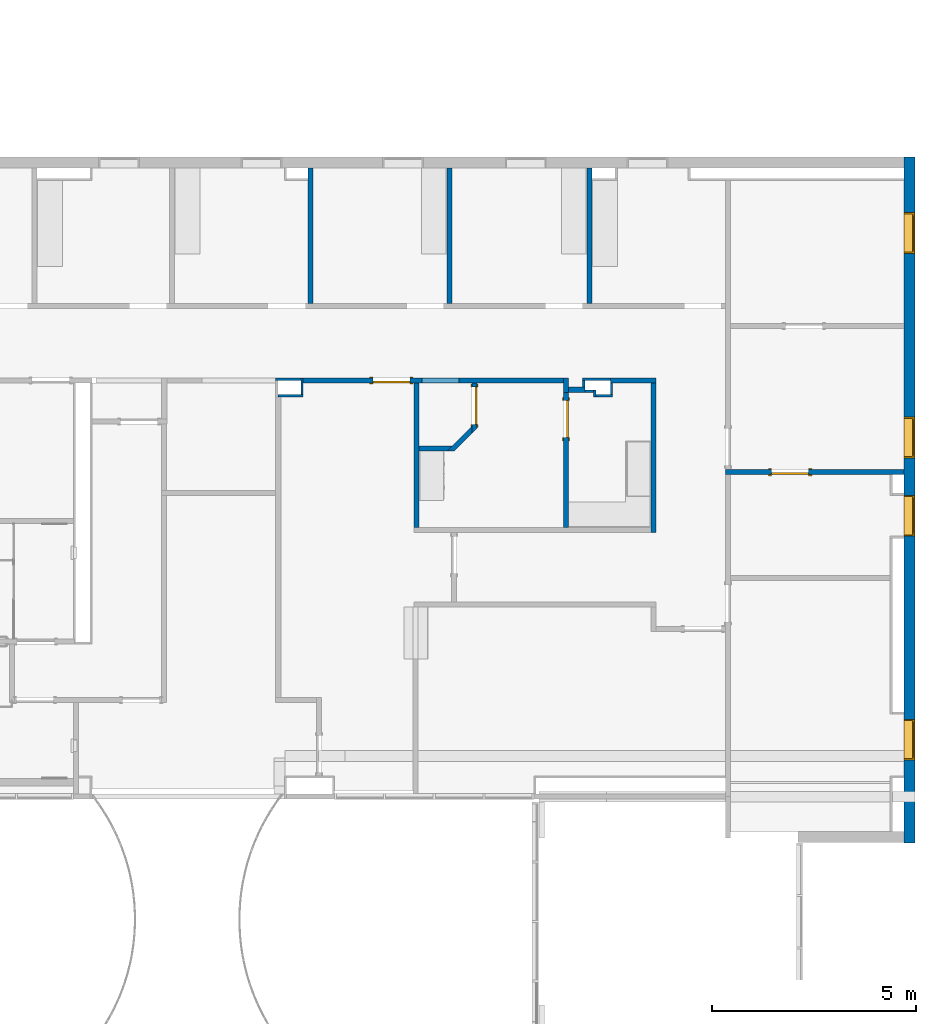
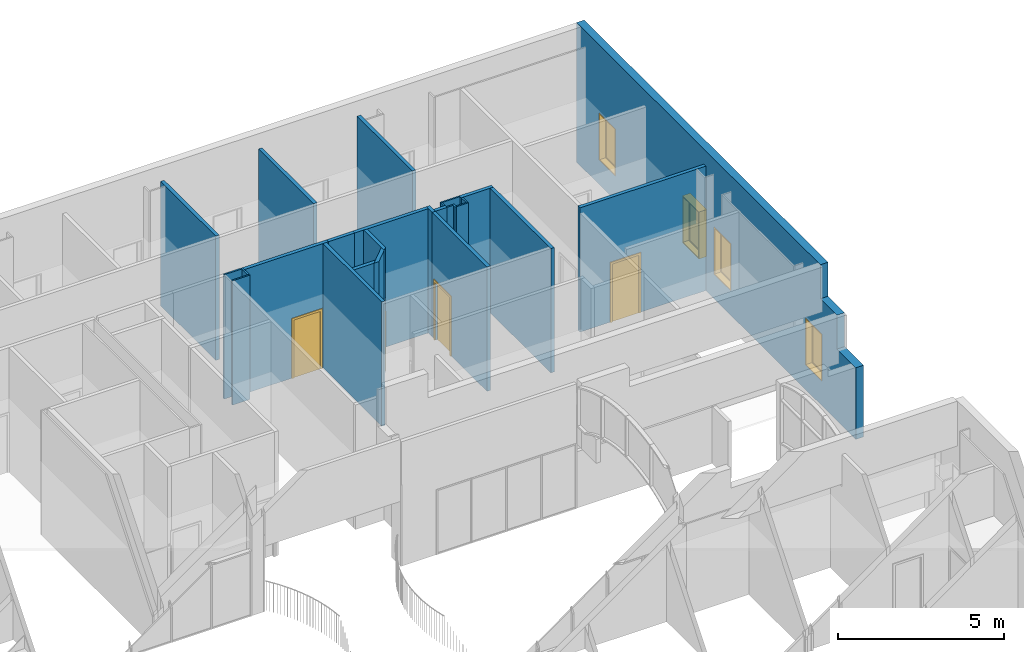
# One storey, part 23 of 45: 26 walls, 4 doors, 4 windows, 9 openings.
"""IFC2X3 building model written with IfcOpenShell, lengths in metres."""

from ifc_helpers import new_model, entity, si_unit, converted_unit, frame, frame_2d, origin, origin_2d_with_axis, place, context, project, spatial, polyline, rectangle, outline, extrude, clip, halfspace, source, transform, mapped, material, layer, layer_set, layer_usage, type_object, type_shapes, element, fill, save


model = new_model("IFC2X3")

# Units and contexts
model_context = context("Model", 3, precision=1e-09, world=origin())
plan_context = context("Plan", 3, precision=1e-09, world=origin())
ifc_project = project(units=[si_unit("LENGTHUNIT", "METRE"), si_unit("AREAUNIT", "SQUARE_METRE"), si_unit("VOLUMEUNIT", "CUBIC_METRE"), converted_unit("PLANEANGLEUNIT", "DEGREE", entity("IfcRatioMeasure", 0.01745329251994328), si_unit("PLANEANGLEUNIT", "RADIAN"), dimensions=[0, 0, 0, 0, 0, 0, 0]), si_unit("TIMEUNIT", "SECOND")], contexts=[model_context, plan_context])

# Site, building, storey
site_placement = place(None, origin())
site = spatial("IfcSite", under=ifc_project, at=site_placement, Name="Default", CompositionType="ELEMENT")
building_placement = place(site_placement, origin())
building = spatial("IfcBuilding", under=site, at=building_placement, CompositionType="ELEMENT")
storey_placement = place(building_placement, frame((0.0, 0.0, 4.570000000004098)))
storey = spatial("IfcBuildingStorey", under=building, at=storey_placement, Name="Second Floor", CompositionType="ELEMENT", Elevation=4.570000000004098)

# Wall, openings, windows
ifc_material_1 = material(Name="Insulation - Insulated Panel")
ifc_layer_1 = layer(ifc_material_1, 0.042)
ifc_material_2 = material(Name="Metal - Firring")
ifc_layer_2 = layer(ifc_material_2, 0.038)
ifc_material_3 = material(Name="Wood - Sheathing - plywood")
ifc_layer_3 = layer(ifc_material_3, 0.019)
ifc_material_4 = material(Name="Metal - Stud Layer")
ifc_layer_4 = layer(ifc_material_4, 0.152)
ifc_material_5 = material(Name="Plasterboard")
ifc_layer_5 = layer(ifc_material_5, 0.016)
ifc_layer_set_1 = layer_set([ifc_layer_1, ifc_layer_2, ifc_layer_3, ifc_layer_4, ifc_layer_5], Name="Basic Wall:Exterior - Insul Panel on Mtl. Stud")
ifc_layer_usage_1 = layer_usage(ifc_layer_set_1, "AXIS2", "NEGATIVE", 0.1335)
wall_1_placement = place(storey_placement, frame((0.2464999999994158, 50.46999999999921, 0.0), z_axis=(0.0, 0.0, 1.0), x_axis=(0.0, -1.0, 0.0)))
wall_1 = element("IfcWallStandardCase", 1, at=wall_1_placement, inside=storey, material=ifc_layer_usage_1, Name="Basic Wall:Exterior - Insul Panel on Mtl. Stud", ObjectType="Basic Wall:Exterior - Insul Panel on Mtl. Stud", context=model_context, shape_type="Clipping", body=[
    clip(extrude(rectangle(XDim=16.83999999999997, YDim=0.267, at=frame_2d((8.419999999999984, 0.0), x_axis=(-1.0, 0.0))), origin(), (0.0, 0.0, 1.0), 5.136999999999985), halfspace(frame((16.83999999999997, 0.0, 2.640000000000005), z_axis=(0.7602158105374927, 0.0, 0.6496706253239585), x_axis=(0.0, 1.0, 0.0)), False)),
])
opening_1_placement = place(wall_1_placement, frame((15.5330384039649, 0.1335, 3.638799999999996)))
element("IfcOpeningElement", 2, at=opening_1_placement, cuts=wall_1, Name="Basic Wall:Exterior - Insul Panel on Mtl. Stud:2", ObjectType="Opening", context=model_context, shape_type="SweptSolid", body=[
    extrude(outline(polyline([(-1.608398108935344, -0.3446818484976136), (1.676195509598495, -0.344681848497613), (0.7270660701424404, 0.4664319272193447), (0.077132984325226, -0.2940910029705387), (-0.8719964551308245, 0.5170227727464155), (-1.608398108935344, -0.3446818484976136)])), frame((0.0, 0.0, 0.0), z_axis=(0.0, -1.0, 0.0), x_axis=(-0.6496706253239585, 0.0, 0.7602158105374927)), (0.0, 0.0, 1.0), 0.267),
])
opening_2_placement = place(wall_1_placement, frame((13.80556128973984, -0.1335000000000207, 0.905)))
opening_2 = element("IfcOpeningElement", 3, at=opening_2_placement, cuts=wall_1, Name="M_Fixed:1735 x 1000mm:1735 x 1000mm:1", ObjectType="Opening", context=model_context, shape_type="SweptSolid", body=[
    extrude(rectangle(XDim=1.734999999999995, YDim=0.9999999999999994, at=frame_2d((0.8674999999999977, 0.5000000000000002), x_axis=(1.0, 0.0))), frame((0.0, 0.0, 0.0), z_axis=(0.0, 1.0, 0.0), x_axis=(0.0, 0.0, 1.0)), (0.0, 0.0, 1.0), 0.267),
])
opening_3_placement = place(wall_1_placement, frame((8.305561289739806, -0.1335000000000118, 0.905)))
opening_3 = element("IfcOpeningElement", 4, at=opening_3_placement, cuts=wall_1, Name="M_Fixed:1735 x 1000mm:1735 x 1000mm:1", ObjectType="Opening", context=model_context, shape_type="SweptSolid", body=[
    extrude(rectangle(XDim=1.734999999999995, YDim=0.9999999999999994, at=frame_2d((0.8674999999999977, 0.5000000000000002), x_axis=(1.0, 0.0))), frame((0.0, 0.0, 0.0), z_axis=(0.0, 1.0, 0.0), x_axis=(0.0, 0.0, 1.0)), (0.0, 0.0, 1.0), 0.267),
])
opening_4_placement = place(wall_1_placement, frame((1.36443913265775, -0.1335000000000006, 0.905)))
opening_4 = element("IfcOpeningElement", 5, at=opening_4_placement, cuts=wall_1, Name="M_Fixed:1735 x 1000mm:1735 x 1000mm:1", ObjectType="Opening", context=model_context, shape_type="SweptSolid", body=[
    extrude(rectangle(XDim=1.734999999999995, YDim=0.9999999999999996, at=frame_2d((0.8674999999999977, 0.4999999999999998), x_axis=(1.0, 0.0))), frame((0.0, 0.0, 0.0), z_axis=(0.0, 1.0, 0.0), x_axis=(0.0, 0.0, 1.0)), (0.0, 0.0, 1.0), 0.267),
])
opening_5_placement = place(wall_1_placement, frame((6.384439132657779, -0.1335000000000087, 0.905)))
opening_5 = element("IfcOpeningElement", 6, at=opening_5_placement, cuts=wall_1, Name="M_Fixed:1735 x 1000mm:1735 x 1000mm:1", ObjectType="Opening", context=model_context, shape_type="SweptSolid", body=[
    extrude(rectangle(XDim=1.734999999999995, YDim=0.9999999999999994, at=frame_2d((0.8674999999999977, 0.5000000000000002), x_axis=(1.0, 0.0))), frame((0.0, 0.0, 0.0), z_axis=(0.0, 1.0, 0.0), x_axis=(0.0, 0.0, 1.0)), (0.0, 0.0, 1.0), 0.267),
])
window_style = type_object("IfcWindowStyle", Name="1735 x 1000mm", ConstructionType="NOTDEFINED", OperationType="NOTDEFINED", ParameterTakesPrecedence=False, Sizeable=False)
shared_shape_1 = source(origin(), model_context, "Body", "SweptSolid", [
    extrude(rectangle(XDim=0.012, YDim=0.873999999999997, at=origin_2d_with_axis()), frame((0.5000000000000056, 0.2259999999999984, 0.06299999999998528), z_axis=(0.0, 0.0, 1.0), x_axis=(0.0, -1.0, 0.0)), (0.0, 0.0, 1.0), 1.609000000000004),
    extrude(outline(polyline([(-0.4809999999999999, -0.8485000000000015), (0.4809999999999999, -0.8485000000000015), (0.4809999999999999, 0.8485000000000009), (-0.4809999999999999, 0.8485000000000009), (-0.4809999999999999, -0.8485000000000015)]), holes=[polyline([(-0.4369999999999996, -0.8045000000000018), (-0.4369999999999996, 0.8045000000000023), (0.4369999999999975, 0.8045000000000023), (0.4369999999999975, -0.8045000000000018), (-0.4369999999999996, -0.8045000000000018)])]), frame((0.5000000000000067, 0.203999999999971, 0.8674999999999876), z_axis=(0.0, 1.0, 0.0), x_axis=(1.0, 0.0, 0.0)), (0.0, 0.0, 1.0), 0.04400000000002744),
    extrude(outline(polyline([(-0.4999999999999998, -0.8674999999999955), (0.4999999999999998, -0.8674999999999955), (0.4999999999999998, 0.8674999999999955), (-0.4999999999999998, 0.8674999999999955), (-0.4999999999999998, -0.8674999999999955)]), holes=[polyline([(-0.4810000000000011, -0.8484999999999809), (-0.4810000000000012, 0.8485000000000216), (0.4809999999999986, 0.8485000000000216), (0.4809999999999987, -0.8484999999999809), (-0.4810000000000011, -0.8484999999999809)])]), frame((0.500000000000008, 0.203999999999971, 0.8675000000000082), z_axis=(0.0, 1.0, 0.0), x_axis=(1.0, 0.0, 0.0)), (0.0, 0.0, 1.0), 0.06300000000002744),
    extrude(outline(polyline([(-0.5000000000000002, -0.867499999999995), (0.5000000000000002, -0.867499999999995), (0.5000000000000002, 0.867499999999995), (-0.5000000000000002, 0.867499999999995), (-0.5000000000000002, -0.867499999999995)]), holes=[polyline([(-0.4679999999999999, -0.8354999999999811), (-0.4679999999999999, 0.8355000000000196), (0.4680000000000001, 0.8355000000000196), (0.4680000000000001, -0.8354999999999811), (-0.4679999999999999, -0.8354999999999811)])]), frame((0.5000000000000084, 0.0, 0.8675000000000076), z_axis=(0.0, 1.0, 0.0), x_axis=(1.0, 0.0, 0.0)), (0.0, 0.0, 1.0), 0.2039999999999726),
])
type_shapes(window_style, [shared_shape_1])
window_1_placement = place(opening_3_placement, origin())
window_1 = element("IfcWindow", 7, at=window_1_placement, inside=storey, type_object=window_style, Name="M_Fixed:1735 x 1000mm:1735 x 1000mm", ObjectType="1735 x 1000mm", OverallHeight=1.734999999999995, OverallWidth=0.9999999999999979, context=model_context, shape_type="MappedRepresentation", body=[
    mapped(shared_shape_1, transform((0.0, 0.0, 0.0), scale=1.0)),
])
fill(opening_3, window_1)
window_2_placement = place(opening_5_placement, origin())
window_2 = element("IfcWindow", 8, at=window_2_placement, inside=storey, type_object=window_style, Name="M_Fixed:1735 x 1000mm:1735 x 1000mm", ObjectType="1735 x 1000mm", OverallHeight=1.734999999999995, OverallWidth=0.9999999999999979, context=model_context, shape_type="MappedRepresentation", body=[
    mapped(shared_shape_1, transform((0.0, 0.0, 0.0), scale=1.0)),
])
fill(opening_5, window_2)
window_3_placement = place(opening_4_placement, origin())
window_3 = element("IfcWindow", 9, at=window_3_placement, inside=storey, type_object=window_style, Name="M_Fixed:1735 x 1000mm:1735 x 1000mm", ObjectType="1735 x 1000mm", OverallHeight=1.734999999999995, OverallWidth=0.9999999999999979, context=model_context, shape_type="MappedRepresentation", body=[
    mapped(shared_shape_1, transform((0.0, 0.0, 0.0), scale=1.0)),
])
fill(opening_4, window_3)
window_4_placement = place(opening_2_placement, origin())
window_4 = element("IfcWindow", 10, at=window_4_placement, inside=storey, type_object=window_style, Name="M_Fixed:1735 x 1000mm:1735 x 1000mm", ObjectType="1735 x 1000mm", OverallHeight=1.734999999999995, OverallWidth=0.9999999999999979, context=model_context, shape_type="MappedRepresentation", body=[
    mapped(shared_shape_1, transform((0.0, 0.0, 0.0), scale=1.0)),
])
fill(opening_2, window_4)

# Wall, opening, door
ifc_layer_6 = layer(ifc_material_5, 0.016)
ifc_layer_7 = layer(ifc_material_4, 0.092)
ifc_layer_8 = layer(ifc_material_5, 0.016)
ifc_layer_set_2 = layer_set([ifc_layer_6, ifc_layer_7, ifc_layer_8], Name="Basic Wall:Interior - Partition (92mm Stud)")
ifc_layer_usage_2 = layer_usage(ifc_layer_set_2, "AXIS2", "NEGATIVE", 0.062)
wall_2_placement = place(storey_placement, frame((-14.6499750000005, 44.9824387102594, 0.0)))
wall_2 = element("IfcWallStandardCase", 11, at=wall_2_placement, inside=storey, material=ifc_layer_usage_2, Name="Basic Wall:Interior - Partition (92mm Stud)", ObjectType="Basic Wall:Interior - Partition (92mm Stud)", context=model_context, shape_type="SweptSolid", body=[
    extrude(rectangle(XDim=2.919974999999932, YDim=0.1240000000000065, at=frame_2d((1.459987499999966, 0.0), x_axis=(-1.0, 0.0))), origin(), (0.0, 0.0, 1.0), 4.577999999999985),
])
opening_6_placement = place(wall_2_placement, frame((2.629974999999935, 0.06199999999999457, 0.0)))
opening_6 = element("IfcOpeningElement", 12, at=opening_6_placement, cuts=wall_2, Name="M_Single-Flush:0915 x 2134mm:0915 x 2134mm:1", ObjectType="Opening", context=model_context, shape_type="SweptSolid", body=[
    extrude(rectangle(XDim=0.9149999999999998, YDim=2.134, at=frame_2d((1.067, 0.4574999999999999), x_axis=(0.0, -1.0))), frame((0.0, 0.0, 0.0), z_axis=(0.0, -1.0, 0.0), x_axis=(0.0, 0.0, 1.0)), (0.0, 0.0, 1.0), 0.124),
])
door_style_1 = type_object("IfcDoorStyle", Name="0915 x 2134mm", ConstructionType="NOTDEFINED", OperationType="SINGLE_SWING_LEFT", ParameterTakesPrecedence=False, Sizeable=False)
shared_shape_2 = source(origin(), model_context, "Body", "SweptSolid", [
    extrude(outline(polyline([(-0.5335, -1.123999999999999), (0.5334999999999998, -1.123999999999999), (0.5334999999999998, 1.086), (0.4574999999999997, 1.086), (0.4574999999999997, -1.048000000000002), (-0.4574999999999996, -1.048000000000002), (-0.4574999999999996, 1.086), (-0.5335, 1.086), (-0.5335, -1.123999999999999)])), frame((0.4575000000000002, 0.1489999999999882, 1.086), z_axis=(0.0, -1.0, 0.0), x_axis=(-1.0, 0.0, 0.0)), (0.0, 0.0, 1.0), 0.02499999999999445),
    extrude(outline(polyline([(-1.123999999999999, -0.5334999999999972), (1.085999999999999, -0.5334999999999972), (1.085999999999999, -0.4575000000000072), (-1.048, -0.4575000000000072), (-1.048, 0.4575000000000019), (1.085999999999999, 0.4575000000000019), (1.085999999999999, 0.5335000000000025), (-1.123999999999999, 0.5335000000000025), (-1.123999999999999, -0.5334999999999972)])), frame((0.4574999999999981, 0.0, 1.085999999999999), z_axis=(0.0, -1.0, 0.0), x_axis=(0.0, 0.0, -1.0)), (0.0, 0.0, 1.0), 0.02500000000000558),
    extrude(rectangle(XDim=0.9149999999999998, YDim=0.051, at=origin_2d_with_axis()), frame((0.4575000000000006, 0.09849999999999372, 0.0)), (0.0, 0.0, 1.0), 2.133999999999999),
])
type_shapes(door_style_1, [shared_shape_2])
door_1_placement = place(opening_6_placement, frame((0.0, 0.0, 0.0), z_axis=(0.0, 0.0, 1.0), x_axis=(-1.0, 0.0, 0.0)))
door_1 = element("IfcDoor", 13, at=door_1_placement, inside=storey, type_object=door_style_1, Name="M_Single-Flush:0915 x 2134mm:0915 x 2134mm", ObjectType="0915 x 2134mm", OverallHeight=2.134, OverallWidth=0.9149999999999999, context=model_context, shape_type="MappedRepresentation", body=[
    mapped(shared_shape_2, transform((0.0, 0.0, 0.0), scale=1.0)),
])
fill(opening_6, door_1)

# Walls
wall_3_placement = place(storey_placement, frame((-11.85800000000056, 41.3784387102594, 0.0), z_axis=(0.0, 0.0, 1.0), x_axis=(0.0, 1.0, 0.0)))
element("IfcWallStandardCase", 14, at=wall_3_placement, inside=storey, material=ifc_layer_usage_2, Name="Basic Wall:Interior - Partition (92mm Stud)", ObjectType="Basic Wall:Interior - Partition (92mm Stud)", context=model_context, shape_type="SweptSolid", body=[
    extrude(rectangle(XDim=3.541999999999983, YDim=0.1240000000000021, at=frame_2d((1.770999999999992, 0.0), x_axis=(-1.0, 0.0))), origin(), (0.0, 0.0, 1.0), 4.577999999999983),
])
wall_4_placement = place(storey_placement, frame((-7.104000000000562, 44.9824387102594, 0.0)))
element("IfcWallStandardCase", 15, at=wall_4_placement, inside=storey, material=ifc_layer_usage_2, Name="Basic Wall:Interior - Partition (92mm Stud)", ObjectType="Basic Wall:Interior - Partition (92mm Stud)", context=model_context, shape_type="SweptSolid", body=[
    extrude(rectangle(XDim=1.124000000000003, YDim=0.1240000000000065, at=frame_2d((0.5620000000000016, 0.0), x_axis=(-1.0, 0.0))), origin(), (0.0, 0.0, 1.0), 4.577999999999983),
])
wall_5_placement = place(storey_placement, frame((-8.13000000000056, 44.75743885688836, 0.0)))
element("IfcWallStandardCase", 16, at=wall_5_placement, inside=storey, material=ifc_layer_usage_2, Name="Basic Wall:Interior - Partition (92mm Stud)", ObjectType="Basic Wall:Interior - Partition (92mm Stud)", context=model_context, shape_type="SweptSolid", body=[
    extrude(rectangle(XDim=0.4039997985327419, YDim=0.1240000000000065, at=frame_2d((0.2019998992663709, 0.0), x_axis=(-1.0, 0.0))), origin(), (0.0, 0.0, 1.0), 4.577999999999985),
])

# Wall, opening, door
wall_6_placement = place(storey_placement, frame((-4.270000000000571, 42.7324387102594, 0.0)))
wall_6 = element("IfcWallStandardCase", 17, at=wall_6_placement, inside=storey, material=ifc_layer_usage_2, Name="Basic Wall:Interior - Partition (92mm Stud)", ObjectType="Basic Wall:Interior - Partition (92mm Stud)", context=model_context, shape_type="SweptSolid", body=[
    extrude(rectangle(XDim=4.382999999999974, YDim=0.1240000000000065, at=frame_2d((2.191499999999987, 0.0), x_axis=(-1.0, 0.0))), origin(), (0.0, 0.0, 1.0), 4.577999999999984),
])
opening_7_placement = place(wall_6_placement, frame((2.03900000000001, 0.06199999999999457, 0.0)))
opening_7 = element("IfcOpeningElement", 18, at=opening_7_placement, cuts=wall_6, Name="M_Single-Flush:0915 x 2134mm:0915 x 2134mm:1", ObjectType="Opening", context=model_context, shape_type="SweptSolid", body=[
    extrude(rectangle(XDim=0.9149999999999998, YDim=2.134, at=frame_2d((1.067, 0.4575000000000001), x_axis=(0.0, 1.0))), frame((0.0, 0.0, 0.0), z_axis=(0.0, -1.0, 0.0), x_axis=(0.0, 0.0, 1.0)), (0.0, 0.0, 1.0), 0.124),
])
door_style_2 = type_object("IfcDoorStyle", Name="0915 x 2134mm", ConstructionType="NOTDEFINED", OperationType="SINGLE_SWING_RIGHT", ParameterTakesPrecedence=False, Sizeable=False)
shared_shape_3 = source(origin(), model_context, "Body", "SweptSolid", [
    extrude(outline(polyline([(-0.5335, -1.123999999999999), (0.5334999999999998, -1.123999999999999), (0.5334999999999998, 1.086), (0.4574999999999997, 1.086), (0.4574999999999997, -1.048000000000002), (-0.4574999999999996, -1.048000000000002), (-0.4574999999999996, 1.086), (-0.5335, 1.086), (-0.5335, -1.123999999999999)])), frame((0.4575000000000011, 0.1239999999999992, 1.086), z_axis=(0.0, 1.0, 0.0), x_axis=(1.0, 0.0, 0.0)), (0.0, 0.0, 1.0), 0.02499999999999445),
    extrude(outline(polyline([(-1.123999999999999, -0.5334999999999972), (1.085999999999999, -0.5334999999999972), (1.085999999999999, -0.4575000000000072), (-1.048, -0.4575000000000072), (-1.048, 0.4575000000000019), (1.085999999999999, 0.4575000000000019), (1.085999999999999, 0.5335000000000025), (-1.123999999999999, 0.5335000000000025), (-1.123999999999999, -0.5334999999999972)])), frame((0.4575000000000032, -0.02500000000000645, 1.085999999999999), z_axis=(0.0, 1.0, 0.0), x_axis=(0.0, 0.0, -1.0)), (0.0, 0.0, 1.0), 0.02500000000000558),
    extrude(rectangle(XDim=0.051, YDim=0.9149999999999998, at=origin_2d_with_axis()), frame((0.4575000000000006, 0.09849999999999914, 0.0), z_axis=(0.0, 0.0, 1.0), x_axis=(0.0, 1.0, 0.0)), (0.0, 0.0, 1.0), 2.133999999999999),
])
type_shapes(door_style_2, [shared_shape_3])
door_2_placement = place(opening_7_placement, frame((0.0, 0.0, 0.0), z_axis=(0.0, 0.0, 1.0), x_axis=(-1.0, 0.0, 0.0)))
door_2 = element("IfcDoor", 19, at=door_2_placement, inside=storey, type_object=door_style_2, Name="M_Single-Flush:0915 x 2134mm:0915 x 2134mm", ObjectType="0915 x 2134mm", OverallHeight=2.134, OverallWidth=0.9150000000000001, context=model_context, shape_type="MappedRepresentation", body=[
    mapped(shared_shape_3, transform((0.0, 0.0, 0.0), scale=1.0)),
])
fill(opening_7, door_2)

# Walls
ifc_layer_9 = layer(ifc_material_4, 0.038)
ifc_layer_10 = layer(ifc_material_5, 0.016)
ifc_layer_set_3 = layer_set([ifc_layer_9, ifc_layer_10], Name="Basic Wall:Interior - Furring (38 mm Stud)")
ifc_layer_usage_3 = layer_usage(ifc_layer_set_3, "AXIS2", "POSITIVE", -0.027)
wall_7_placement = place(storey_placement, frame((-15.32000000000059, 45.01743871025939, 0.0)))
element("IfcWallStandardCase", 20, at=wall_7_placement, inside=storey, material=ifc_layer_usage_3, Name="Basic Wall:Interior - Furring (38 mm Stud)", ObjectType="Basic Wall:Interior - Furring (38 mm Stud)", context=model_context, shape_type="SweptSolid", body=[
    extrude(rectangle(XDim=0.6160250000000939, YDim=0.05400000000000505, at=frame_2d((0.3080125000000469, 0.0), x_axis=(-1.0, 0.0))), origin(), (0.0, 0.0, 1.0), 4.577999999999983),
])
wall_8_placement = place(storey_placement, frame((-14.46200000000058, 50.20299999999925, 0.0), z_axis=(0.0, 0.0, 1.0), x_axis=(0.0, -1.0, 0.0)))
element("IfcWallStandardCase", 21, at=wall_8_placement, inside=storey, material=ifc_layer_usage_2, Name="Basic Wall:Interior - Partition (92mm Stud)", ObjectType="Basic Wall:Interior - Partition (92mm Stud)", context=model_context, shape_type="SweptSolid", body=[
    extrude(rectangle(XDim=3.324561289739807, YDim=0.1240000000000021, at=frame_2d((1.662280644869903, 0.0), x_axis=(-1.0, 0.0))), origin(), (0.0, 0.0, 1.0), 4.577999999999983),
])
wall_9_placement = place(storey_placement, frame((-10.81500000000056, 44.98243871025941, 0.0)))
element("IfcWallStandardCase", 22, at=wall_9_placement, inside=storey, material=ifc_layer_usage_2, Name="Basic Wall:Interior - Partition (92mm Stud)", ObjectType="Basic Wall:Interior - Partition (92mm Stud)", context=model_context, shape_type="SweptSolid", body=[
    extrude(rectangle(XDim=2.561, YDim=0.1240000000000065, at=frame_2d((1.2805, 0.0), x_axis=(-1.0, 0.0))), origin(), (0.0, 0.0, 1.0), 4.577999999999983),
])
ifc_layer_usage_4 = layer_usage(ifc_layer_set_3, "AXIS2", "NEGATIVE", 0.027)
wall_10_placement = place(storey_placement, frame((-7.104000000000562, 45.01743871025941, 0.0), z_axis=(0.0, 0.0, 1.0), x_axis=(-1.0, 0.0, 0.0)))
element("IfcWallStandardCase", 23, at=wall_10_placement, inside=storey, material=ifc_layer_usage_4, Name="Basic Wall:Interior - Furring (38 mm Stud)", ObjectType="Basic Wall:Interior - Furring (38 mm Stud)", context=model_context, shape_type="SweptSolid", body=[
    extrude(rectangle(XDim=0.676000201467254, YDim=0.05400000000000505, at=frame_2d((0.338000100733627, 0.0), x_axis=(-1.0, 0.0))), origin(), (0.0, 0.0, 1.0), 4.577999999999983),
])

# Wall, opening, door
wall_11_placement = place(storey_placement, frame((-8.192000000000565, 41.3784387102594, 0.0), z_axis=(0.0, 0.0, 1.0), x_axis=(0.0, 1.0, 0.0)))
wall_11 = element("IfcWallStandardCase", 24, at=wall_11_placement, inside=storey, material=ifc_layer_usage_2, Name="Basic Wall:Interior - Partition (92mm Stud)", ObjectType="Basic Wall:Interior - Partition (92mm Stud)", context=model_context, shape_type="SweptSolid", body=[
    extrude(rectangle(XDim=3.317000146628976, YDim=0.124, at=frame_2d((1.658500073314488, 0.0), x_axis=(-1.0, 0.0))), origin(), (0.0, 0.0, 1.0), 4.577999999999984),
])
opening_8_placement = place(wall_11_placement, frame((3.117000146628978, 0.06199999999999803, 0.0)))
opening_8 = element("IfcOpeningElement", 25, at=opening_8_placement, cuts=wall_11, Name="M_Single-Flush:0915 x 2134mm:0915 x 2134mm:1", ObjectType="Opening", context=model_context, shape_type="SweptSolid", body=[
    extrude(rectangle(XDim=0.9149999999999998, YDim=2.134, at=frame_2d((1.067, 0.4574999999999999), x_axis=(0.0, -1.0))), frame((0.0, 0.0, 0.0), z_axis=(0.0, -1.0, 0.0), x_axis=(0.0, 0.0, 1.0)), (0.0, 0.0, 1.0), 0.124),
])
door_3_placement = place(opening_8_placement, frame((0.0, 0.0, 0.0), z_axis=(0.0, 0.0, 1.0), x_axis=(-1.0, 0.0, 0.0)))
door_3 = element("IfcDoor", 26, at=door_3_placement, inside=storey, type_object=door_style_1, Name="M_Single-Flush:0915 x 2134mm:0915 x 2134mm", ObjectType="0915 x 2134mm", OverallHeight=2.134, OverallWidth=0.9149999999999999, context=model_context, shape_type="MappedRepresentation", body=[
    mapped(shared_shape_2, transform((0.0, 0.0, 0.0), scale=1.0)),
])
fill(opening_8, door_3)

# Wall
wall_12_placement = place(storey_placement, frame((-7.618000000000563, 46.87843871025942, 0.0), z_axis=(0.0, 0.0, 1.0), x_axis=(0.0, 1.0, 0.0)))
element("IfcWallStandardCase", 27, at=wall_12_placement, inside=storey, material=ifc_layer_usage_2, Name="Basic Wall:Interior - Partition (92mm Stud)", ObjectType="Basic Wall:Interior - Partition (92mm Stud)", context=model_context, shape_type="SweptSolid", body=[
    extrude(rectangle(XDim=3.324561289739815, YDim=0.124, at=frame_2d((1.662280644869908, 0.0), x_axis=(-1.0, 0.0))), origin(), (0.0, 0.0, 1.0), 4.577999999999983),
])

# Wall, opening, door
wall_13_placement = place(storey_placement, frame((-10.44197086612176, 44.92043871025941, 0.0), z_axis=(0.0, 0.0, 1.0), x_axis=(0.0, -1.0, 0.0)))
wall_13 = element("IfcWallStandardCase", 28, at=wall_13_placement, inside=storey, material=ifc_layer_usage_2, Name="Basic Wall:Interior - Partition (92mm Stud)", ObjectType="Basic Wall:Interior - Partition (92mm Stud)", context=model_context, shape_type="SweptSolid", body=[
    extrude(outline(polyline([(0.0, -0.0619999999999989), (1.060230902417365, -0.061999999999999), (1.235593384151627, -0.06199999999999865), (1.111593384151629, 0.06200000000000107), (0.0, 0.06200000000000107), (0.0, -0.0619999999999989)])), origin(), (0.0, 0.0, 1.0), 4.577999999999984),
])
opening_9_placement = place(wall_13_placement, frame((0.09999999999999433, -0.06200000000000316, 0.0)))
opening_9 = element("IfcOpeningElement", 29, at=opening_9_placement, cuts=wall_13, Name="M_Single-Flush:0915 x 2134mm:0915 x 2134mm:1", ObjectType="Opening", context=model_context, shape_type="SweptSolid", body=[
    extrude(rectangle(XDim=0.9149999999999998, YDim=2.134, at=frame_2d((1.067, 0.4575000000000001), x_axis=(0.0, -1.0))), frame((0.0, 0.0, 0.0), z_axis=(0.0, 1.0, 0.0), x_axis=(0.0, 0.0, 1.0)), (0.0, 0.0, 1.0), 0.124),
])
door_4_placement = place(opening_9_placement, origin())
door_4 = element("IfcDoor", 30, at=door_4_placement, inside=storey, type_object=door_style_1, Name="M_Single-Flush:0915 x 2134mm:0915 x 2134mm", ObjectType="0915 x 2134mm", OverallHeight=2.134, OverallWidth=0.9149999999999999, context=model_context, shape_type="MappedRepresentation", body=[
    mapped(shared_shape_2, transform((0.0, 0.0, 0.0), scale=1.0)),
])
fill(opening_9, door_4)

# Walls
wall_14_placement = place(storey_placement, frame((-7.726000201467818, 44.72243885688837, 0.0)))
element("IfcWallStandardCase", 31, at=wall_14_placement, inside=storey, material=ifc_layer_usage_4, Name="Basic Wall:Interior - Furring (38 mm Stud)", ObjectType="Basic Wall:Interior - Furring (38 mm Stud)", context=model_context, shape_type="SweptSolid", body=[
    extrude(rectangle(XDim=0.2160002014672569, YDim=0.05400000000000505, at=frame_2d((0.1080001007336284, 0.0), x_axis=(-1.0, 0.0))), origin(), (0.0, 0.0, 1.0), 4.577999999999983),
])
wall_15_placement = place(storey_placement, frame((-7.077000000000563, 44.63843871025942, 0.0), z_axis=(0.0, 0.0, 1.0), x_axis=(0.0, 1.0, 0.0)))
element("IfcWallStandardCase", 32, at=wall_15_placement, inside=storey, material=ifc_layer_usage_4, Name="Basic Wall:Interior - Furring (38 mm Stud)", ObjectType="Basic Wall:Interior - Furring (38 mm Stud)", context=model_context, shape_type="SweptSolid", body=[
    extrude(rectangle(XDim=0.2819999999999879, YDim=0.05400000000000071, at=frame_2d((0.1409999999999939, 0.0), x_axis=(-1.0, 0.0))), origin(), (0.0, 0.0, 1.0), 4.577999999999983),
])
wall_16_placement = place(storey_placement, frame((-14.67697500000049, 45.04443871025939, 0.0), z_axis=(0.0, 0.0, 1.0), x_axis=(0.0, -1.0, 0.0)))
element("IfcWallStandardCase", 33, at=wall_16_placement, inside=storey, material=ifc_layer_usage_3, Name="Basic Wall:Interior - Furring (38 mm Stud)", ObjectType="Basic Wall:Interior - Furring (38 mm Stud)", context=model_context, shape_type="SweptSolid", body=[
    extrude(rectangle(XDim=0.406000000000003, YDim=0.05400000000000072, at=frame_2d((0.2030000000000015, 0.0), x_axis=(-1.0, 0.0))), origin(), (0.0, 0.0, 1.0), 4.577999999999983),
])
wall_17_placement = place(storey_placement, frame((-7.753000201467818, 44.9904387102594, 0.0), z_axis=(0.0, 0.0, 1.0), x_axis=(0.0, -1.0, 0.0)))
element("IfcWallStandardCase", 34, at=wall_17_placement, inside=storey, material=ifc_layer_usage_4, Name="Basic Wall:Interior - Furring (38 mm Stud)", ObjectType="Basic Wall:Interior - Furring (38 mm Stud)", context=model_context, shape_type="SweptSolid", body=[
    extrude(rectangle(XDim=0.1709998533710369, YDim=0.05400000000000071, at=frame_2d((0.08549992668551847, 0.0), x_axis=(-1.0, 0.0))), origin(), (0.0, 0.0, 1.0), 4.577999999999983),
])
wall_18_placement = place(storey_placement, frame((-14.6499750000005, 44.6114387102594, 0.0), z_axis=(0.0, 0.0, 1.0), x_axis=(-1.0, 0.0, 0.0)))
element("IfcWallStandardCase", 35, at=wall_18_placement, inside=storey, material=ifc_layer_usage_3, Name="Basic Wall:Interior - Furring (38 mm Stud)", ObjectType="Basic Wall:Interior - Furring (38 mm Stud)", context=model_context, shape_type="SweptSolid", body=[
    extrude(rectangle(XDim=0.6160250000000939, YDim=0.05400000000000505, at=frame_2d((0.3080125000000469, 0.0), x_axis=(-1.0, 0.0))), origin(), (0.0, 0.0, 1.0), 4.577999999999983),
])
wall_19_placement = place(storey_placement, frame((-8.19200000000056, 45.04443871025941, 0.0), z_axis=(0.0, 0.0, 1.0), x_axis=(0.0, -1.0, 0.0)))
element("IfcWallStandardCase", 36, at=wall_19_placement, inside=storey, material=ifc_layer_usage_2, Name="Basic Wall:Interior - Partition (92mm Stud)", ObjectType="Basic Wall:Interior - Partition (92mm Stud)", context=model_context, shape_type="SweptSolid", body=[
    extrude(rectangle(XDim=0.3489998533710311, YDim=0.124, at=frame_2d((0.1744999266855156, 0.0), x_axis=(-1.0, 0.0))), origin(), (0.0, 0.0, 1.0), 4.577999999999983),
])
wall_20_placement = place(storey_placement, frame((-11.05200000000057, 50.20299999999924, 0.0), z_axis=(0.0, 0.0, 1.0), x_axis=(0.0, -1.0, 0.0)))
element("IfcWallStandardCase", 37, at=wall_20_placement, inside=storey, material=ifc_layer_usage_2, Name="Basic Wall:Interior - Partition (92mm Stud)", ObjectType="Basic Wall:Interior - Partition (92mm Stud)", context=model_context, shape_type="SweptSolid", body=[
    extrude(rectangle(XDim=3.324561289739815, YDim=0.1240000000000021, at=frame_2d((1.662280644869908, 0.0), x_axis=(-1.0, 0.0))), origin(), (0.0, 0.0, 1.0), 4.577999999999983),
])
wall_21_placement = place(storey_placement, frame((-10.4601302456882, 43.81636718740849, 0.0), z_axis=(0.0, 0.0, 1.0), x_axis=(-0.7071067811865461, -0.7071067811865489, 0.0)))
element("IfcWallStandardCase", 38, at=wall_21_placement, inside=storey, material=ifc_layer_usage_2, Name="Basic Wall:Interior - Partition (92mm Stud)", ObjectType="Basic Wall:Interior - Partition (92mm Stud)", context=model_context, shape_type="SweptSolid", body=[
    extrude(outline(polyline([(0.8526375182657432, -0.06199999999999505), (0.7286375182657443, 0.06200000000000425), (0.1240000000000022, 0.06200000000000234), (0.0, -0.06199999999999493), (0.6772750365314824, -0.06199999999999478), (0.8526375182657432, -0.06199999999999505)])), origin(), (0.0, 0.0, 1.0), 4.577999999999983),
])
wall_22_placement = place(storey_placement, frame((-10.98287663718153, 43.31930203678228, 0.0), z_axis=(0.0, 0.0, 1.0), x_axis=(-1.0, 0.0, 0.0)))
element("IfcWallStandardCase", 39, at=wall_22_placement, inside=storey, material=ifc_layer_usage_2, Name="Basic Wall:Interior - Partition (92mm Stud)", ObjectType="Basic Wall:Interior - Partition (92mm Stud)", context=model_context, shape_type="SweptSolid", body=[
    extrude(outline(polyline([(0.813123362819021, -0.06199999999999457), (0.813123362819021, 0.06200000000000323), (0.1239999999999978, 0.06200000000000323), (0.0, -0.06199999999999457), (0.813123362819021, -0.06199999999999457)])), origin(), (0.0, 0.0, 1.0), 4.577999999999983),
])
wall_23_placement = place(storey_placement, frame((-6.042000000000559, 44.9204387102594, 0.0), z_axis=(0.0, 0.0, 1.0), x_axis=(0.0, -1.0, 0.0)))
element("IfcWallStandardCase", 40, at=wall_23_placement, inside=storey, material=ifc_layer_usage_2, Name="Basic Wall:Interior - Partition (92mm Stud)", ObjectType="Basic Wall:Interior - Partition (92mm Stud)", context=model_context, shape_type="SweptSolid", body=[
    extrude(rectangle(XDim=3.666000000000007, YDim=0.124, at=frame_2d((1.833000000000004, 0.0), x_axis=(-1.0, 0.0))), origin(), (0.0, 0.0, 1.0), 4.577999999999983),
])
wall_24_placement = place(storey_placement, frame((-7.456000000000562, 44.61143871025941, 0.0)))
element("IfcWallStandardCase", 41, at=wall_24_placement, inside=storey, material=ifc_layer_usage_4, Name="Basic Wall:Interior - Furring (38 mm Stud)", ObjectType="Basic Wall:Interior - Furring (38 mm Stud)", context=model_context, shape_type="SweptSolid", body=[
    extrude(rectangle(XDim=0.4059999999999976, YDim=0.05400000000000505, at=frame_2d((0.2029999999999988, 0.0), x_axis=(-1.0, 0.0))), origin(), (0.0, 0.0, 1.0), 4.577999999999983),
])
wall_25_placement = place(storey_placement, frame((-7.483000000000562, 44.74943885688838, 0.0), z_axis=(0.0, 0.0, 1.0), x_axis=(0.0, -1.0, 0.0)))
element("IfcWallStandardCase", 42, at=wall_25_placement, inside=storey, material=ifc_layer_usage_4, Name="Basic Wall:Interior - Furring (38 mm Stud)", ObjectType="Basic Wall:Interior - Furring (38 mm Stud)", context=model_context, shape_type="SweptSolid", body=[
    extrude(rectangle(XDim=0.165000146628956, YDim=0.05400000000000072, at=frame_2d((0.082500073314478, 0.0), x_axis=(-1.0, 0.0))), origin(), (0.0, 0.0, 1.0), 4.577999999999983),
])
wall_26_placement = place(storey_placement, frame((-11.73000000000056, 44.98243871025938, 2.399999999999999)))
element("IfcWallStandardCase", 43, at=wall_26_placement, inside=storey, material=ifc_layer_usage_2, Name="Basic Wall:Interior - Partition (92mm Stud)", ObjectType="Basic Wall:Interior - Partition (92mm Stud)", context=model_context, shape_type="SweptSolid", body=[
    extrude(rectangle(XDim=0.915000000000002, YDim=0.1240000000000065, at=frame_2d((0.457500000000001, 0.0), x_axis=(-1.0, 0.0))), origin(), (0.0, 0.0, 1.0), 2.177999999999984),
])

save(model, "model.ifc")
